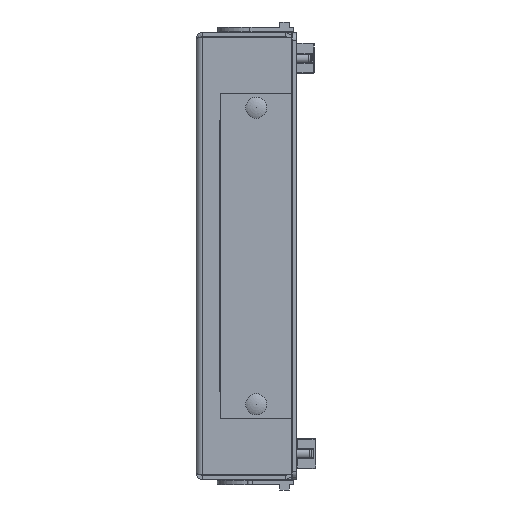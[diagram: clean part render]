
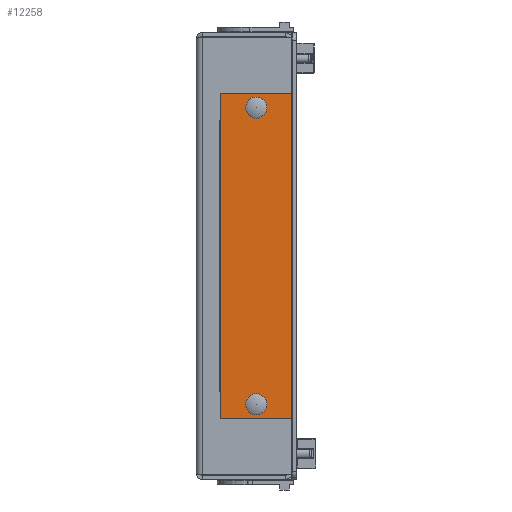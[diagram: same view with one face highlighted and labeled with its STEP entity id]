
A CAD part, left-side view. The second image highlights one B-rep face of the part: STEP entity #12258.
In plain terms, the highlighted planar face has unit normal (-1, 0, 0) as drawn and (0, 0, 1) by its records, which use the part's own axes.
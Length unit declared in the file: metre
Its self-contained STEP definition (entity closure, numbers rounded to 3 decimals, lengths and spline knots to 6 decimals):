
#821=CIRCLE('',#14110,0.002921);
#823=CIRCLE('',#14114,0.002921);
#1569=ORIENTED_EDGE('',*,*,#4893,.F.);
#1570=ORIENTED_EDGE('',*,*,#4897,.T.);
#1571=ORIENTED_EDGE('',*,*,#4900,.T.);
#1572=ORIENTED_EDGE('',*,*,#4904,.F.);
#1573=ORIENTED_EDGE('',*,*,#4901,.F.);
#1574=ORIENTED_EDGE('',*,*,#4905,.T.);
#4893=EDGE_CURVE('',#6591,#6592,#7772,.T.);
#4897=EDGE_CURVE('',#6591,#6594,#7776,.T.);
#4900=EDGE_CURVE('',#6594,#6596,#7779,.T.);
#4901=EDGE_CURVE('',#6597,#6597,#821,.T.);
#4904=EDGE_CURVE('',#6592,#6596,#7781,.T.);
#4905=EDGE_CURVE('',#6599,#6599,#823,.T.);
#6591=VERTEX_POINT('',#19031);
#6592=VERTEX_POINT('',#19033);
#6594=VERTEX_POINT('',#19039);
#6596=VERTEX_POINT('',#19045);
#6597=VERTEX_POINT('',#19049);
#6599=VERTEX_POINT('',#19057);
#7772=LINE('',#19032,#8959);
#7776=LINE('',#19040,#8963);
#7779=LINE('',#19046,#8966);
#7781=LINE('',#19054,#8968);
#8959=VECTOR('',#15493,1.);
#8963=VECTOR('',#15499,1.);
#8966=VECTOR('',#15504,1.);
#8968=VECTOR('',#15514,1.);
#10076=EDGE_LOOP('',(#1569,#1570,#1571,#1572));
#10077=EDGE_LOOP('',(#1573));
#10078=EDGE_LOOP('',(#1574));
#10964=FACE_BOUND('',#10076,.T.);
#10965=FACE_BOUND('',#10077,.T.);
#10966=FACE_BOUND('',#10078,.T.);
#11833=PLANE('',#14116);
#12258=ADVANCED_FACE('',(#10964,#10965,#10966),#11833,.T.);
#14110=AXIS2_PLACEMENT_3D('',#19048,#15507,#15508);
#14114=AXIS2_PLACEMENT_3D('',#19056,#15517,#15518);
#14116=AXIS2_PLACEMENT_3D('',#19060,#15521,#15522);
#15493=DIRECTION('',(0.,1.,0.));
#15499=DIRECTION('',(1.,0.,0.));
#15504=DIRECTION('',(0.,1.,0.));
#15507=DIRECTION('',(0.,0.,1.));
#15508=DIRECTION('',(1.,0.,0.));
#15514=DIRECTION('',(1.,0.,0.));
#15517=DIRECTION('',(0.,0.,-1.));
#15518=DIRECTION('',(1.,0.,0.));
#15521=DIRECTION('',(0.,0.,1.));
#15522=DIRECTION('',(1.,0.,0.));
#19031=CARTESIAN_POINT('',(-0.014224,-0.064897,0.001588));
#19032=CARTESIAN_POINT('',(-0.014224,0.,0.001588));
#19033=CARTESIAN_POINT('',(-0.014224,0.064897,0.001588));
#19039=CARTESIAN_POINT('',(0.014224,-0.064897,0.001588));
#19040=CARTESIAN_POINT('',(0.,-0.064897,0.001588));
#19045=CARTESIAN_POINT('',(0.014224,0.064897,0.001588));
#19046=CARTESIAN_POINT('',(0.014224,0.,0.001588));
#19048=CARTESIAN_POINT('',(0.,-0.059055,0.001588));
#19049=CARTESIAN_POINT('',(0.002921,-0.059055,0.001588));
#19054=CARTESIAN_POINT('',(0.,0.064897,0.001588));
#19056=CARTESIAN_POINT('',(0.,0.059055,0.001588));
#19057=CARTESIAN_POINT('',(0.002921,0.059055,0.001588));
#19060=CARTESIAN_POINT('',(0.,0.,0.001588));
